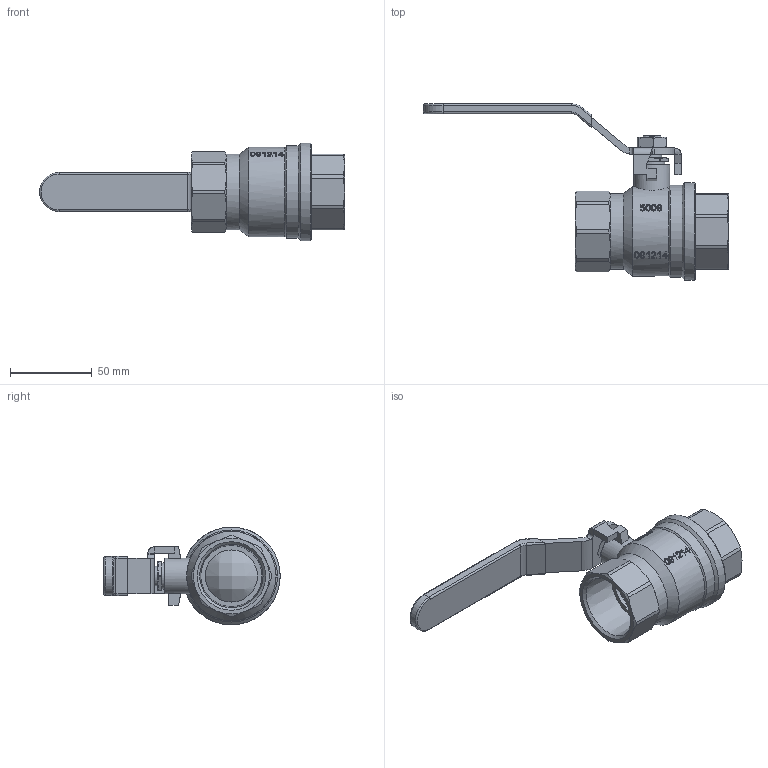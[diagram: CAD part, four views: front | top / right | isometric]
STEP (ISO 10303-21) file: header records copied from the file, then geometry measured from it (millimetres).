
FILE_DESCRIPTION((''),'2;1');
FILE_NAME('P:\Fastrack\53972_CRANE 3D\Fig100YL\100YL-114\100YL-114.stp','2011-01-27T16:47:29',('btaylor'),(''),'Autodesk Inventor 2008','Autodesk Inventor 2008','');
FILE_SCHEMA(('AUTOMOTIVE_DESIGN { 1 0 10303 214 1 1 1 1 }'));
Length unit declared in the file: millimetre
Products named in the file (1): 100YL-114
Bounding box: 187 x 108.11 x 59.8 mm (x, y, z)
Volume: 171041.8 mm3; surface area: 70871.4 mm2
Topology: 7 solids, 10 shells, 1651 faces, 4394 edges, 2932 vertices
Faces by surface type: plane 853, bspline 597, cylinder 116, cone 67, torus 15, sphere 3
Full cylindrical faces by diameter (mm): 12 x1, 12.1 x2, 12.5 x1, 13 x1, 13.5 x1, 16 x1, 16.3 x1, 16.5 x2, 22 x1, 32 x6, 41 x2, 42 x4, 46.5 x1, 47 x1, 50.5 x1, 52 x1, 52.2 x1, 54.8 x1, 56.5 x1, 59.8 x1
Entity records: 127060 total; most frequent: CARTESIAN_POINT 88746, ORIENTED_EDGE 8596, DIRECTION 5370, EDGE_CURVE 4298, VERTEX_POINT 2901, VECTOR 2608, LINE 2608, EDGE_LOOP 1913
